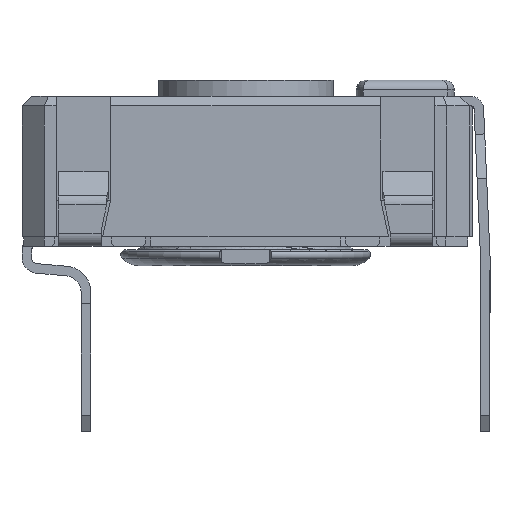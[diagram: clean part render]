
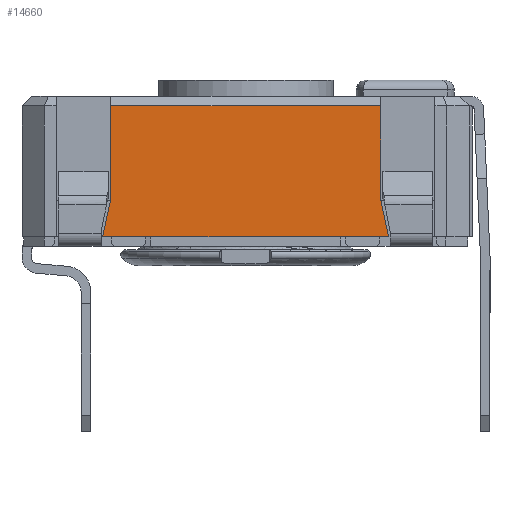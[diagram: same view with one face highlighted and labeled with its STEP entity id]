
A CAD part, left-side view. The second image highlights one B-rep face of the part: STEP entity #14660.
In plain terms, the highlighted planar face has unit normal (-1, 0, 0).
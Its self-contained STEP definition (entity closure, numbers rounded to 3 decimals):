
#1229=FACE_OUTER_BOUND('',#1985,.T.);
#1985=EDGE_LOOP('',(#11945,#11946,#11947,#11948,#11949,#11950));
#2537=LINE('',#20713,#4145);
#3158=LINE('',#22544,#4766);
#3162=LINE('',#22551,#4770);
#3519=LINE('',#23316,#5127);
#3524=LINE('',#23324,#5132);
#3525=LINE('',#23326,#5133);
#4145=VECTOR('',#16673,10.);
#4766=VECTOR('',#18160,10.);
#4770=VECTOR('',#18166,10.);
#5127=VECTOR('',#18911,10.);
#5132=VECTOR('',#18918,10.);
#5133=VECTOR('',#18921,10.);
#5690=VERTEX_POINT('',#20710);
#5691=VERTEX_POINT('',#20712);
#6273=VERTEX_POINT('',#22541);
#6274=VERTEX_POINT('',#22543);
#6276=VERTEX_POINT('',#22549);
#6476=VERTEX_POINT('',#23322);
#7141=EDGE_CURVE('',#5690,#5691,#2537,.T.);
#7966=EDGE_CURVE('',#6273,#6274,#3158,.T.);
#7970=EDGE_CURVE('',#6273,#6276,#3162,.T.);
#8351=EDGE_CURVE('',#5691,#6276,#3519,.T.);
#8356=EDGE_CURVE('',#6476,#5690,#3524,.T.);
#8357=EDGE_CURVE('',#6476,#6274,#3525,.T.);
#11945=ORIENTED_EDGE('',*,*,#7966,.F.);
#11946=ORIENTED_EDGE('',*,*,#7970,.T.);
#11947=ORIENTED_EDGE('',*,*,#8351,.F.);
#11948=ORIENTED_EDGE('',*,*,#7141,.F.);
#11949=ORIENTED_EDGE('',*,*,#8356,.F.);
#11950=ORIENTED_EDGE('',*,*,#8357,.T.);
#13258=PLANE('',#15669);
#14660=ADVANCED_FACE('',(#1229),#13258,.T.);
#15669=AXIS2_PLACEMENT_3D('',#23360,#18967,#18968);
#16673=DIRECTION('',(0.,1.,0.));
#18160=DIRECTION('',(0.,-1.,0.));
#18166=DIRECTION('',(0.,0.,-1.));
#18911=DIRECTION('',(0.,-0.208,0.978));
#18918=DIRECTION('',(0.,-0.208,-0.978));
#18921=DIRECTION('',(0.,0.,1.));
#18967=DIRECTION('center_axis',(-1.,0.,0.));
#18968=DIRECTION('ref_axis',(0.,0.,1.));
#20710=CARTESIAN_POINT('',(-7.,-4.425,-2.225));
#20712=CARTESIAN_POINT('',(-7.,4.525,-2.225));
#20713=CARTESIAN_POINT('',(-7.,-6.25,-2.225));
#22541=CARTESIAN_POINT('',(-7.,4.275,1.875));
#22543=CARTESIAN_POINT('',(-7.,-4.175,1.875));
#22544=CARTESIAN_POINT('',(-7.,-3.1,1.875));
#22549=CARTESIAN_POINT('',(-7.,4.275,-1.049));
#22551=CARTESIAN_POINT('',(-7.,4.275,-2.225));
#23316=CARTESIAN_POINT('',(-7.,4.525,-2.225));
#23322=CARTESIAN_POINT('',(-7.,-4.175,-1.049));
#23324=CARTESIAN_POINT('',(-7.,-4.175,-1.049));
#23326=CARTESIAN_POINT('',(-7.,-4.175,-2.225));
#23360=CARTESIAN_POINT('Origin',(-7.,-6.25,-2.225));
